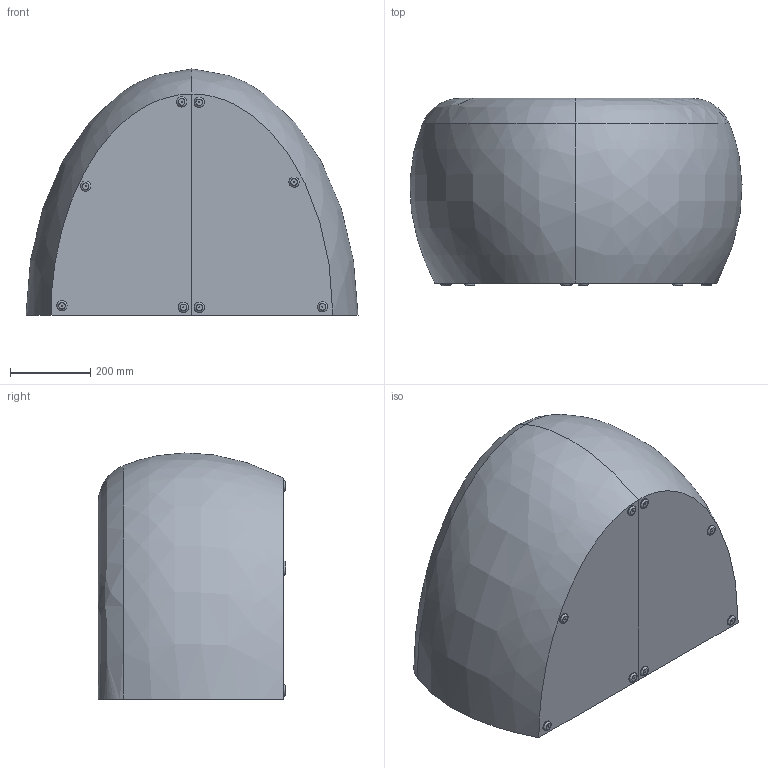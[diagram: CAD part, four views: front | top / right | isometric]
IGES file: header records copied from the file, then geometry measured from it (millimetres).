
Global section: file name: Doppio elipse; native system: Autodesk Inventor 2021; preprocessor: unknown; author: auxdiseno; date: 20220909.070538; units: millimetre
Bounding box: 825.57 x 466.35 x 612.03 mm (x, y, z)
Volume: 166818484.9 mm3; surface area: 2249320.7 mm2
Topology: 18 solids, 18 shells, 92 faces, 176 edges, 120 vertices
Faces by surface type: bspline 92
